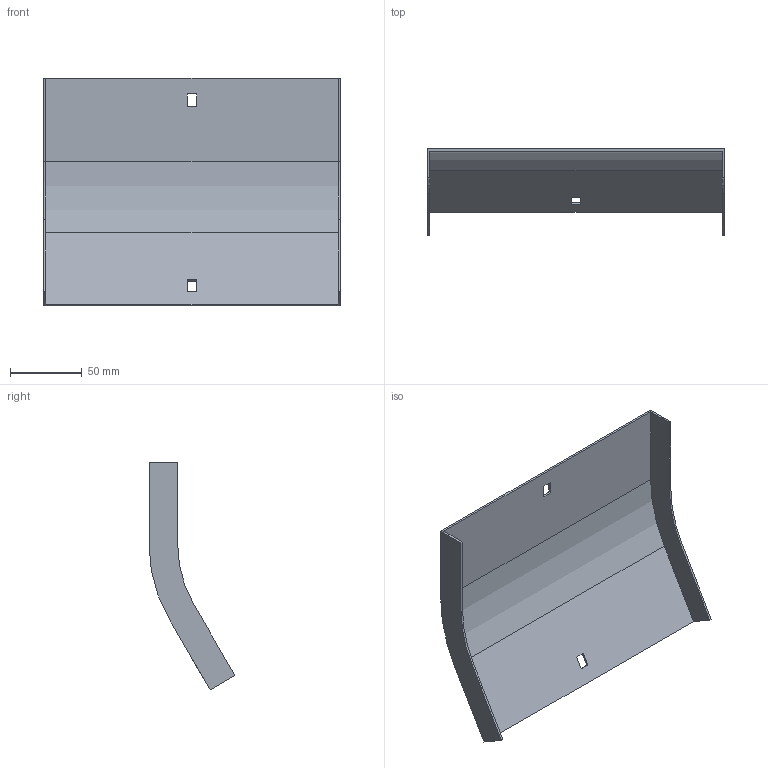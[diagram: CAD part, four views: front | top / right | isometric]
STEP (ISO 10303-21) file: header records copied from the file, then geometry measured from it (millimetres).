
FILE_DESCRIPTION (( 'STEP AP214' ), '1' );
FILE_NAME ('35G1D200.step', '2025-02-21T12:40:39', ( '' ), ( '' ), 'SwSTEP 2.0', 'SolidWorks 2023', '' );
FILE_SCHEMA (( 'AUTOMOTIVE_DESIGN' ));
Length unit declared in the file: millimetre
Products named in the file (1): 35G1D200
Bounding box: 207 x 59.87 x 158.79 mm (x, y, z)
Volume: 61224.1 mm3; surface area: 82933.8 mm2
Topology: 1 solids, 1 shells, 26 faces, 72 edges, 48 vertices
Faces by surface type: plane 22, cylinder 4
Entity records: 855 total; most frequent: CARTESIAN_POINT 147, ORIENTED_EDGE 144, DIRECTION 134, EDGE_CURVE 72, VECTOR 64, LINE 64, VERTEX_POINT 48, AXIS2_PLACEMENT_3D 35
